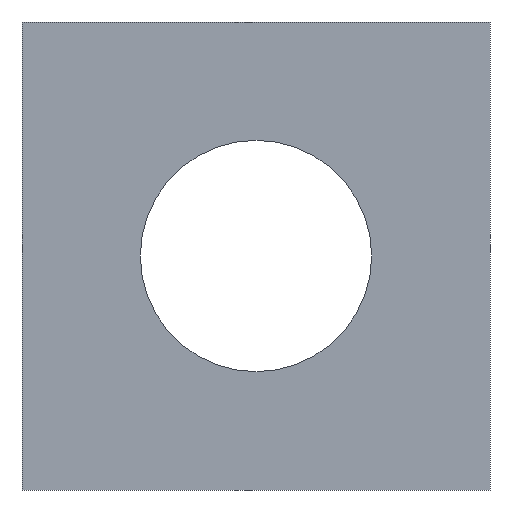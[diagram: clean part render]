
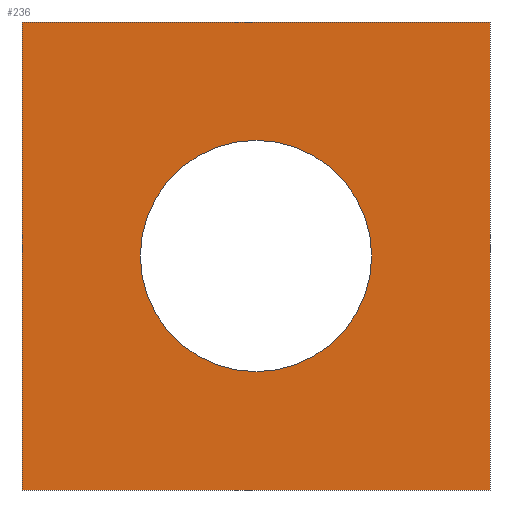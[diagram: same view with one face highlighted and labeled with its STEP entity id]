
A CAD part, front view. The second image highlights one B-rep face of the part: STEP entity #236.
In plain terms, the highlighted planar face has unit normal (0, -1, 0).
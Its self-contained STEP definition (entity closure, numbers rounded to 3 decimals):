
#12 = VECTOR ( 'NONE', #14, 1000. ) ;
#14 = DIRECTION ( 'NONE',  ( -1., 0., 0. ) ) ;
#28 = CARTESIAN_POINT ( 'NONE',  ( 4.25, 0., -4.25 ) ) ;
#29 = EDGE_LOOP ( 'NONE', ( #227, #271, #284, #276 ) ) ;
#31 = EDGE_CURVE ( 'NONE', #262, #291, #214, .T. ) ;
#33 = CARTESIAN_POINT ( 'NONE',  ( 4.25, 0., 4.25 ) ) ;
#35 = AXIS2_PLACEMENT_3D ( 'NONE', #76, #132, #232 ) ;
#37 = CARTESIAN_POINT ( 'NONE',  ( 0., 0., 0. ) ) ;
#49 = EDGE_LOOP ( 'NONE', ( #229, #272 ) ) ;
#51 = DIRECTION ( 'NONE',  ( 0., 0., 1. ) ) ;
#69 = CARTESIAN_POINT ( 'NONE',  ( 0., 0., 2.1 ) ) ;
#73 = DIRECTION ( 'NONE',  ( 0., 0., 1. ) ) ;
#76 = CARTESIAN_POINT ( 'NONE',  ( 0., 0., 0. ) ) ;
#126 = DIRECTION ( 'NONE',  ( 0., 1., 0. ) ) ;
#132 = DIRECTION ( 'NONE',  ( 0., 1., 0. ) ) ;
#133 = AXIS2_PLACEMENT_3D ( 'NONE', #311, #126, #73 ) ;
#136 = DIRECTION ( 'NONE',  ( 0., 1., 0. ) ) ;
#139 = CARTESIAN_POINT ( 'NONE',  ( -4.25, 0., -4.25 ) ) ;
#146 = CARTESIAN_POINT ( 'NONE',  ( -4.25, 0., 4.25 ) ) ;
#147 = AXIS2_PLACEMENT_3D ( 'NONE', #37, #136, #51 ) ;
#153 = CARTESIAN_POINT ( 'NONE',  ( -4.25, 0., 4.25 ) ) ;
#157 = FACE_BOUND ( 'NONE', #49, .T. ) ;
#158 = FACE_OUTER_BOUND ( 'NONE', #29, .T. ) ;
#159 = CIRCLE ( 'NONE', #147, 2.1 ) ;
#172 = VECTOR ( 'NONE', #267, 1000. ) ;
#175 = CARTESIAN_POINT ( 'NONE',  ( 4.25, 0., 4.25 ) ) ;
#178 = LINE ( 'NONE', #33, #172 ) ;
#181 = VECTOR ( 'NONE', #254, 1000. ) ;
#184 = EDGE_CURVE ( 'NONE', #292, #308, #204, .T. ) ;
#188 = LINE ( 'NONE', #175, #181 ) ;
#192 = EDGE_CURVE ( 'NONE', #291, #295, #209, .T. ) ;
#196 = VECTOR ( 'NONE', #218, 1000. ) ;
#204 = CIRCLE ( 'NONE', #35, 2.1 ) ;
#205 = CARTESIAN_POINT ( 'NONE',  ( 4.25, 0., 4.25 ) ) ;
#206 = EDGE_CURVE ( 'NONE', #295, #299, #188, .T. ) ;
#209 = LINE ( 'NONE', #146, #196 ) ;
#214 = LINE ( 'NONE', #28, #12 ) ;
#215 = EDGE_CURVE ( 'NONE', #299, #262, #178, .T. ) ;
#218 = DIRECTION ( 'NONE',  ( 0., 0., 1. ) ) ;
#226 = EDGE_CURVE ( 'NONE', #308, #292, #159, .T. ) ;
#227 = ORIENTED_EDGE ( 'NONE', *, *, #192, .F. ) ;
#229 = ORIENTED_EDGE ( 'NONE', *, *, #226, .T. ) ;
#232 = DIRECTION ( 'NONE',  ( 0., 0., 1. ) ) ;
#235 = CARTESIAN_POINT ( 'NONE',  ( 4.25, 0., -4.25 ) ) ;
#236 = ADVANCED_FACE ( 'NONE', ( #157, #158 ), #282, .F. ) ;
#254 = DIRECTION ( 'NONE',  ( 1., 0., 0. ) ) ;
#262 = VERTEX_POINT ( 'NONE', #235 ) ;
#267 = DIRECTION ( 'NONE',  ( 0., 0., -1. ) ) ;
#271 = ORIENTED_EDGE ( 'NONE', *, *, #31, .F. ) ;
#272 = ORIENTED_EDGE ( 'NONE', *, *, #184, .T. ) ;
#273 = CARTESIAN_POINT ( 'NONE',  ( 0., 0., -2.1 ) ) ;
#276 = ORIENTED_EDGE ( 'NONE', *, *, #206, .F. ) ;
#282 = PLANE ( 'NONE',  #133 ) ;
#284 = ORIENTED_EDGE ( 'NONE', *, *, #215, .F. ) ;
#291 = VERTEX_POINT ( 'NONE', #139 ) ;
#292 = VERTEX_POINT ( 'NONE', #273 ) ;
#295 = VERTEX_POINT ( 'NONE', #153 ) ;
#299 = VERTEX_POINT ( 'NONE', #205 ) ;
#308 = VERTEX_POINT ( 'NONE', #69 ) ;
#311 = CARTESIAN_POINT ( 'NONE',  ( 0., 0., 0. ) ) ;
